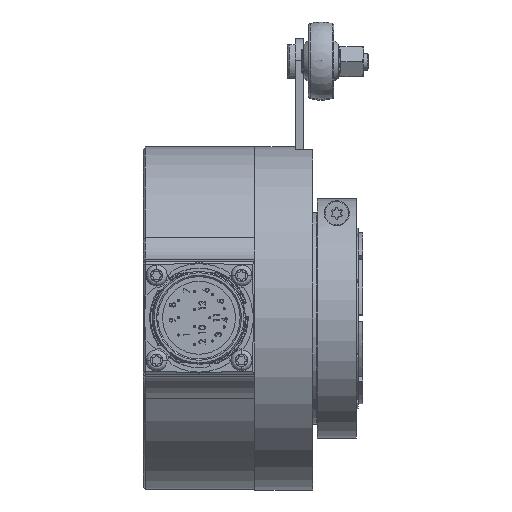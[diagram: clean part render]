
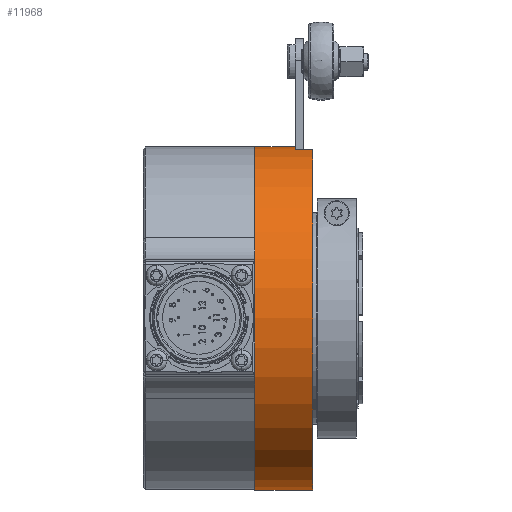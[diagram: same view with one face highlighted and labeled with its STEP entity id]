
A CAD part, top view. The second image highlights one B-rep face of the part: STEP entity #11968.
In plain terms, the highlighted cylindrical face has radius 40.075 mm (diameter 80.15 mm), a partial arc.
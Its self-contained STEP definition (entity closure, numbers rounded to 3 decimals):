
#219 = ORIENTED_EDGE ( 'NONE', *, *, #22318, .F. ) ;
#369 = AXIS2_PLACEMENT_3D ( 'NONE', #6949, #11005, #20339 ) ;
#780 = CARTESIAN_POINT ( 'NONE',  ( 9.5, 39.468, 6.95 ) ) ;
#2019 = ORIENTED_EDGE ( 'NONE', *, *, #2840, .T. ) ;
#2578 = EDGE_CURVE ( 'NONE', #20068, #27038, #28584, .T. ) ;
#2840 = EDGE_CURVE ( 'NONE', #19201, #11142, #21956, .T. ) ;
#3426 = AXIS2_PLACEMENT_3D ( 'NONE', #38499, #23702, #29982 ) ;
#4263 = CARTESIAN_POINT ( 'NONE',  ( -12.775, -40.075, 0. ) ) ;
#5565 = EDGE_CURVE ( 'NONE', #27038, #19201, #31989, .T. ) ;
#6906 = DIRECTION ( 'NONE',  ( -1., 0., 0. ) ) ;
#6949 = CARTESIAN_POINT ( 'NONE',  ( 13.5, 0., 0. ) ) ;
#8955 = EDGE_CURVE ( 'NONE', #32201, #11142, #36849, .T. ) ;
#11005 = DIRECTION ( 'NONE',  ( -1., 0., 0. ) ) ;
#11142 = VERTEX_POINT ( 'NONE', #32660 ) ;
#11968 = ADVANCED_FACE ( 'NONE', ( #15463 ), #39832, .T. ) ;
#14118 = VECTOR ( 'NONE', #34851, 1000. ) ;
#14832 = VECTOR ( 'NONE', #25637, 1000. ) ;
#15272 = DIRECTION ( 'NONE',  ( -1., 0., 0. ) ) ;
#15463 = FACE_OUTER_BOUND ( 'NONE', #39926, .T. ) ;
#17311 = VECTOR ( 'NONE', #6906, 1000. ) ;
#17326 = ORIENTED_EDGE ( 'NONE', *, *, #5565, .T. ) ;
#17534 = ORIENTED_EDGE ( 'NONE', *, *, #21098, .T. ) ;
#17722 = CARTESIAN_POINT ( 'NONE',  ( 0., -40.075, 0. ) ) ;
#18150 = VERTEX_POINT ( 'NONE', #38875 ) ;
#19201 = VERTEX_POINT ( 'NONE', #31776 ) ;
#19613 = CARTESIAN_POINT ( 'NONE',  ( 13.5, 39.468, 6.95 ) ) ;
#20068 = VERTEX_POINT ( 'NONE', #19613 ) ;
#20339 = DIRECTION ( 'NONE',  ( 0., 1., 0. ) ) ;
#21098 = EDGE_CURVE ( 'NONE', #18150, #20068, #36071, .T. ) ;
#21956 = LINE ( 'NONE', #27881, #17311 ) ;
#22318 = EDGE_CURVE ( 'NONE', #18150, #32201, #37577, .T. ) ;
#23268 = AXIS2_PLACEMENT_3D ( 'NONE', #31362, #34394, #30964 ) ;
#23702 = DIRECTION ( 'NONE',  ( -1., 0., 0. ) ) ;
#24034 = ORIENTED_EDGE ( 'NONE', *, *, #2578, .T. ) ;
#25637 = DIRECTION ( 'NONE',  ( -1., 0., 0. ) ) ;
#27038 = VERTEX_POINT ( 'NONE', #780 ) ;
#27881 = CARTESIAN_POINT ( 'NONE',  ( -12.775, 40.075, 0. ) ) ;
#28584 = LINE ( 'NONE', #35253, #14118 ) ;
#29982 = DIRECTION ( 'NONE',  ( 0., 1., 0. ) ) ;
#30964 = DIRECTION ( 'NONE',  ( 0., 1., 0. ) ) ;
#31183 = AXIS2_PLACEMENT_3D ( 'NONE', #37181, #15272, #36792 ) ;
#31362 = CARTESIAN_POINT ( 'NONE',  ( 0., 0., 0. ) ) ;
#31776 = CARTESIAN_POINT ( 'NONE',  ( 9.5, 40.075, 0. ) ) ;
#31989 = CIRCLE ( 'NONE', #3426, 40.075 ) ;
#32201 = VERTEX_POINT ( 'NONE', #17722 ) ;
#32660 = CARTESIAN_POINT ( 'NONE',  ( 0., 40.075, 0. ) ) ;
#34394 = DIRECTION ( 'NONE',  ( -1., 0., 0. ) ) ;
#34851 = DIRECTION ( 'NONE',  ( -1., 0., 0. ) ) ;
#35173 = ORIENTED_EDGE ( 'NONE', *, *, #8955, .F. ) ;
#35253 = CARTESIAN_POINT ( 'NONE',  ( -12.775, 39.468, 6.95 ) ) ;
#36071 = CIRCLE ( 'NONE', #369, 40.075 ) ;
#36792 = DIRECTION ( 'NONE',  ( 0., 1., 0. ) ) ;
#36849 = CIRCLE ( 'NONE', #23268, 40.075 ) ;
#37181 = CARTESIAN_POINT ( 'NONE',  ( -12.775, 0., 0. ) ) ;
#37577 = LINE ( 'NONE', #4263, #14832 ) ;
#38499 = CARTESIAN_POINT ( 'NONE',  ( 9.5, 0., 0. ) ) ;
#38875 = CARTESIAN_POINT ( 'NONE',  ( 13.5, -40.075, 0. ) ) ;
#39832 = CYLINDRICAL_SURFACE ( 'NONE', #31183, 40.075 ) ;
#39926 = EDGE_LOOP ( 'NONE', ( #219, #17534, #24034, #17326, #2019, #35173 ) ) ;
